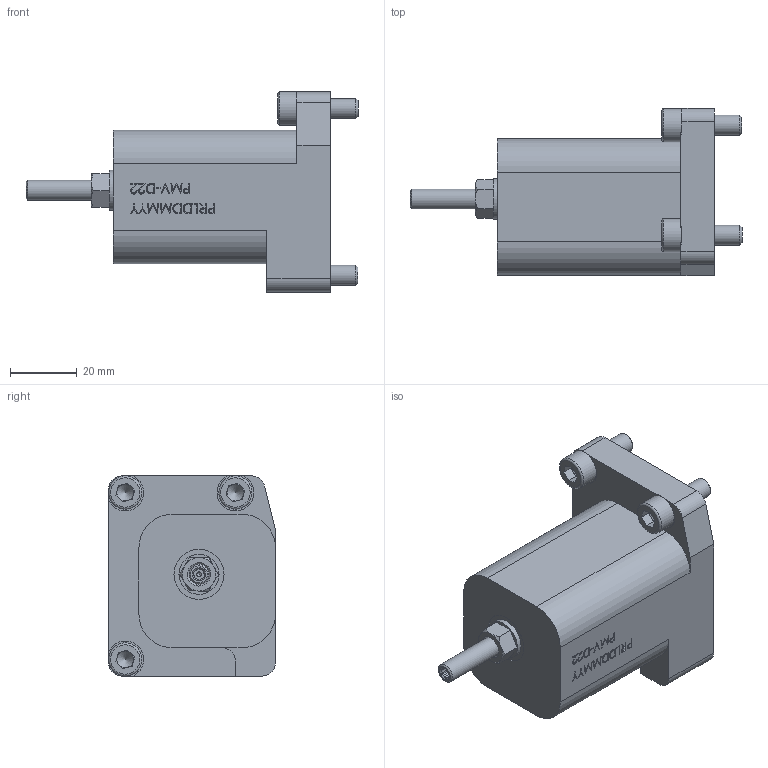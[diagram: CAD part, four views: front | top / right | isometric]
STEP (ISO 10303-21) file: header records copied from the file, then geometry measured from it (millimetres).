
FILE_DESCRIPTION (( 'STEP AP214' ), '1' );
FILE_NAME ('0304543.STEP', '2022-08-02T13:09:06', ( '' ), ( '' ), 'SwSTEP 2.0', 'SolidWorks 2020', '' );
FILE_SCHEMA (( 'AUTOMOTIVE_DESIGN' ));
Length unit declared in the file: millimetre
Products named in the file (5): 0073842_153.2301; 0304543; 0074669_079.3135; 0292990_002; 0074697_246.3119
Assembly tree (6 placements, depth 2):
  0304543
    0292990_002
    0074697_246.3119  x3
    0073842_153.2301
    0074669_079.3135
Bounding box: 99.5 x 50 x 60 mm (x, y, z)
Volume: 119070.7 mm3; surface area: 20011.1 mm2
Topology: 6 solids, 7 shells, 362 faces, 904 edges, 593 vertices
Faces by surface type: plane 243, bspline 50, cylinder 39, cone 24, torus 6
Full cylindrical faces by diameter (mm): 4 x1, 5 x2, 6 x4, 6.4 x6, 7.8 x1, 10 x3, 12 x1, 15 x1, 37.5 x1
Entity records: 12556 total; most frequent: CARTESIAN_POINT 5075, ORIENTED_EDGE 1552, DIRECTION 1289, EDGE_CURVE 776, LINE 557, VECTOR 557, VERTEX_POINT 527, EDGE_LOOP 383
